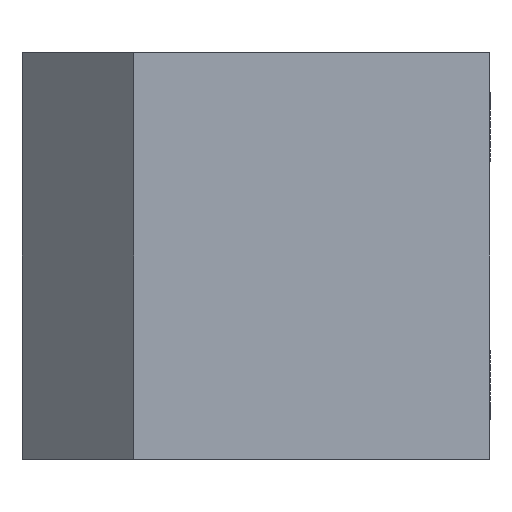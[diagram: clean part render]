
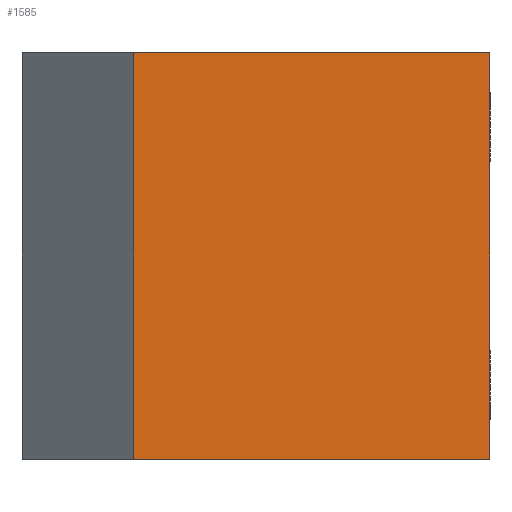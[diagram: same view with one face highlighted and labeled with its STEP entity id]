
A CAD part, left-side view. The second image highlights one B-rep face of the part: STEP entity #1585.
In plain terms, the highlighted planar face has unit normal (-1, 0, 0).
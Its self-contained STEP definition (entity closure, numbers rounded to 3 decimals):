
#65 = CARTESIAN_POINT ( 'NONE',  ( -32., -23., -20. ) ) ;
#93 = CARTESIAN_POINT ( 'NONE',  ( -32., -23., -20. ) ) ;
#120 = EDGE_LOOP ( 'NONE', ( #539, #400, #1093, #1330 ) ) ;
#200 = CARTESIAN_POINT ( 'NONE',  ( -32., -23., -20. ) ) ;
#237 = VERTEX_POINT ( 'NONE', #1453 ) ;
#366 = PLANE ( 'NONE',  #1164 ) ;
#398 = EDGE_CURVE ( 'NONE', #237, #1510, #1234, .T. ) ;
#400 = ORIENTED_EDGE ( 'NONE', *, *, #1220, .T. ) ;
#517 = DIRECTION ( 'NONE',  ( 0., -1., 0. ) ) ;
#539 = ORIENTED_EDGE ( 'NONE', *, *, #398, .F. ) ;
#622 = VECTOR ( 'NONE', #1770, 1000. ) ;
#718 = CARTESIAN_POINT ( 'NONE',  ( -32., 12., 20. ) ) ;
#736 = EDGE_CURVE ( 'NONE', #743, #1650, #872, .T. ) ;
#743 = VERTEX_POINT ( 'NONE', #200 ) ;
#763 = VECTOR ( 'NONE', #1191, 1000. ) ;
#787 = DIRECTION ( 'NONE',  ( 0., -1., 0. ) ) ;
#872 = LINE ( 'NONE', #65, #1195 ) ;
#956 = CARTESIAN_POINT ( 'NONE',  ( -32., 12., -20. ) ) ;
#1053 = DIRECTION ( 'NONE',  ( -1., 0., 0. ) ) ;
#1093 = ORIENTED_EDGE ( 'NONE', *, *, #736, .T. ) ;
#1102 = VECTOR ( 'NONE', #787, 1000. ) ;
#1164 = AXIS2_PLACEMENT_3D ( 'NONE', #1748, #1053, #517 ) ;
#1191 = DIRECTION ( 'NONE',  ( 0., -1., 0. ) ) ;
#1195 = VECTOR ( 'NONE', #1699, 1000. ) ;
#1220 = EDGE_CURVE ( 'NONE', #237, #743, #1592, .T. ) ;
#1234 = LINE ( 'NONE', #956, #622 ) ;
#1328 = CARTESIAN_POINT ( 'NONE',  ( -32., -23., 20. ) ) ;
#1330 = ORIENTED_EDGE ( 'NONE', *, *, #1604, .F. ) ;
#1453 = CARTESIAN_POINT ( 'NONE',  ( -32., 12., -20. ) ) ;
#1462 = FACE_OUTER_BOUND ( 'NONE', #120, .T. ) ;
#1480 = LINE ( 'NONE', #1741, #1102 ) ;
#1510 = VERTEX_POINT ( 'NONE', #718 ) ;
#1585 = ADVANCED_FACE ( 'NONE', ( #1462 ), #366, .T. ) ;
#1592 = LINE ( 'NONE', #93, #763 ) ;
#1604 = EDGE_CURVE ( 'NONE', #1510, #1650, #1480, .T. ) ;
#1650 = VERTEX_POINT ( 'NONE', #1328 ) ;
#1699 = DIRECTION ( 'NONE',  ( 0., 0., 1. ) ) ;
#1741 = CARTESIAN_POINT ( 'NONE',  ( -32., -23., 20. ) ) ;
#1748 = CARTESIAN_POINT ( 'NONE',  ( -32., -23., -20. ) ) ;
#1770 = DIRECTION ( 'NONE',  ( 0., 0., 1. ) ) ;
